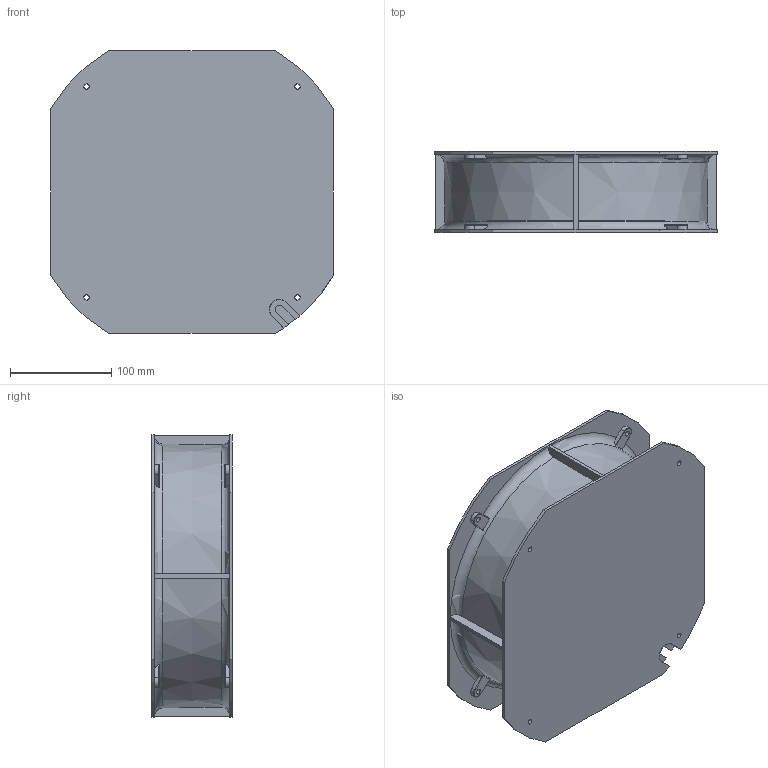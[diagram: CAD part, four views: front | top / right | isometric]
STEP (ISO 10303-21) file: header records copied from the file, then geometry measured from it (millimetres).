
FILE_DESCRIPTION (( 'STEP AP214' ), '1' );
FILE_NAME ('C25Sxx.STEP', '2023-11-27T13:06:13', ( '' ), ( '' ), 'SwSTEP 2.0', 'SolidWorks 2022', '' );
FILE_SCHEMA (( 'AUTOMOTIVE_DESIGN' ));
Length unit declared in the file: millimetre
Products named in the file (1): C25Sxx
Bounding box: 280 x 80 x 280 mm (x, y, z)
Volume: 4415382.7 mm3; surface area: 254109.8 mm2
Topology: 1 solids, 1 shells, 148 faces, 416 edges, 272 vertices
Faces by surface type: plane 61, cylinder 48, torus 25, cone 14
Entity records: 5582 total; most frequent: CARTESIAN_POINT 1705, ORIENTED_EDGE 832, DIRECTION 794, EDGE_CURVE 416, AXIS2_PLACEMENT_3D 309, VERTEX_POINT 272, LINE 176, VECTOR 176
